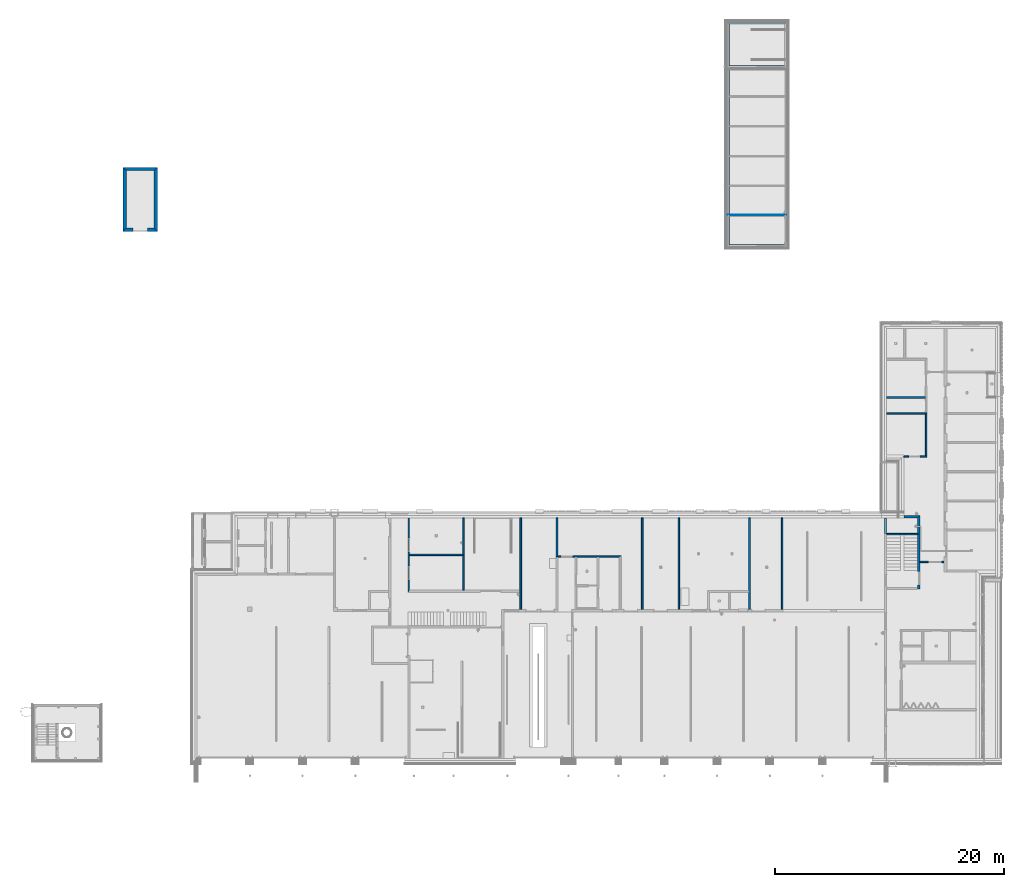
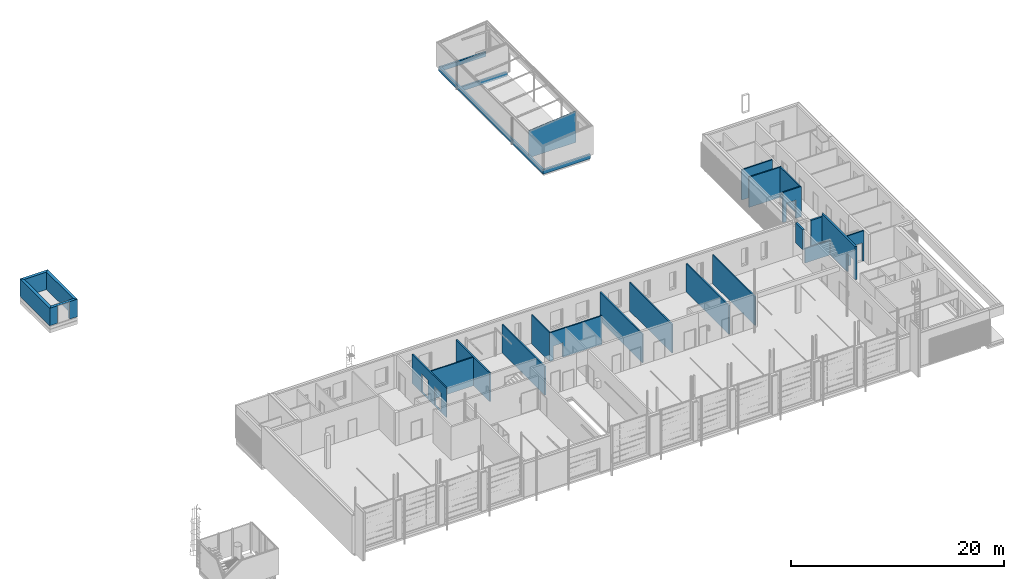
# One storey, part 15 of 112: 28 walls, 8 openings.
"""IFC2X3 building model written with IfcOpenShell, lengths in millimetres."""

from ifc_helpers import new_model, entity, si_unit, converted_unit, derived_unit, money_unit, direction, frame, origin_with_axes, origin_2d_with_axis, place, context, subcontext, project, spatial, polyline, rectangle, outline, extrude, clip, halfspace, material, layer, layer_set, layer_usage, type_object, element, save


model = new_model("IFC2X3")

# Units and contexts
model_context = context("Model", 3, precision=0.01, world=origin_with_axes(), true_north=direction((0.0, 1.0)))
body_context = subcontext(model_context, "Body", "Model", "MODEL_VIEW")
ifc_project = project(units=[si_unit("LENGTHUNIT", "METRE", prefix="MILLI"), si_unit("AREAUNIT", "SQUARE_METRE"), si_unit("VOLUMEUNIT", "CUBIC_METRE"), converted_unit("PLANEANGLEUNIT", "DEGREE", entity("IfcPlaneAngleMeasure", 0.0174532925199), si_unit("PLANEANGLEUNIT", "RADIAN"), dimensions=[0, 0, 0, 0, 0, 0, 0]), si_unit("SOLIDANGLEUNIT", "STERADIAN"), money_unit("EUR"), converted_unit("TIMEUNIT", "Year", entity("IfcTimeMeasure", 31556926.0), si_unit("TIMEUNIT", "SECOND"), dimensions=[0, 0, 1, 0, 0, 0, 0]), si_unit("MASSUNIT", "GRAM", prefix="KILO"), si_unit("THERMODYNAMICTEMPERATUREUNIT", "DEGREE_CELSIUS"), si_unit("LUMINOUSINTENSITYUNIT", "LUMEN"), si_unit("ENERGYUNIT", "JOULE", prefix="MEGA"), derived_unit("THERMALCONDUCTANCEUNIT", [(si_unit("POWERUNIT", "WATT"), 1), (si_unit("LENGTHUNIT", "METRE"), -1), (si_unit("THERMODYNAMICTEMPERATUREUNIT", "KELVIN"), -1)]), derived_unit("SPECIFICHEATCAPACITYUNIT", [(si_unit("ENERGYUNIT", "JOULE"), 1), (si_unit("MASSUNIT", "GRAM", prefix="KILO"), -1), (si_unit("THERMODYNAMICTEMPERATUREUNIT", "KELVIN"), -1)]), derived_unit("MASSDENSITYUNIT", [(si_unit("MASSUNIT", "GRAM", prefix="KILO"), 1), (si_unit("VOLUMEUNIT", "CUBIC_METRE"), -1)])], contexts=[model_context])

# Site, building, storey
site_placement = place(None, origin_with_axes())
site = spatial("IfcSite", under=ifc_project, at=site_placement, Name="Politse- ja Piirivalveameti ning Päästeameti ühishoone", CompositionType="ELEMENT")
building_placement = place(site_placement, origin_with_axes())
building = spatial("IfcBuilding", under=site, at=building_placement, Name="Politse- ja Piirivalveameti ning Päästeameti ühishoone", CompositionType="ELEMENT")
storey_placement = place(building_placement, origin_with_axes())
storey = spatial("IfcBuildingStorey", under=building, at=storey_placement, Name="Esimene korrus", CompositionType="ELEMENT", Elevation=0.0)

# Wall, opening
ifc_material_1 = material(Name="KON-05_Betoon Plokk - Konstuktsioon")
ifc_layer_1 = layer(ifc_material_1, 190.0, ventilated="UNKNOWN")
ifc_layer_set_1 = layer_set([ifc_layer_1], Name="SS-03_Sisesein 190")
ifc_layer_usage_1 = layer_usage(ifc_layer_set_1, "AXIS2", "POSITIVE", -190.0)
wall_type_1 = type_object("IfcWallType", Name="SS-03_Sisesein 190 190", PredefinedType="NOTDEFINED")
wall_1_placement = place(storey_placement, frame((60160.5519118, 20999.9520832, 0.0), z_axis=(0.0, 0.0, 1.0), x_axis=(0.0, -1.0, 0.0)))
wall_1 = element("IfcWallStandardCase", 1, at=wall_1_placement, inside=storey, type_object=wall_type_1, material=ifc_layer_usage_1, Name="SS-03", context=body_context, shape_type="SweptSolid", body=[
    extrude(outline(polyline([(0.0, -190.0), (1360.0, -190.0), (1360.0, 0.0), (0.0, 0.0), (0.0, -190.0)])), origin_with_axes(), (0.0, 0.0, 1.0), 3800.0),
])
opening_1_placement = place(wall_1_placement, frame((680.0, 0.0, 0.0), z_axis=(0.0, 0.0, 1.0), x_axis=(1.0, 0.0, 0.0)))
element("IfcOpeningElement", 2, at=opening_1_placement, cuts=wall_1, Name="TÜHI AVA", context=body_context, shape_type="SweptSolid", body=[
    extrude(rectangle(XDim=1360.0, YDim=1500.0, at=origin_2d_with_axis()), frame((0.0, 190.0, 750.0), z_axis=(0.0, -1.0, 0.0), x_axis=(1.0, 0.0, 0.0)), (0.0, 0.0, 1.0), 570.0),
])

ifc_layer_usage_2 = layer_usage(ifc_layer_set_1, "AXIS2", "NEGATIVE", 190.0)
wall_2_placement = place(storey_placement, frame((63050.557259, 14802.7968272, 0.0), z_axis=(0.0, 0.0, 1.0), x_axis=(0.0, 1.0, 0.0)))
wall_2 = element("IfcWallStandardCase", 3, at=wall_2_placement, inside=storey, type_object=wall_type_1, material=ifc_layer_usage_2, Name="SS-03", context=body_context, shape_type="SweptSolid", body=[
    extrude(outline(polyline([(0.0, 0.0), (6387.15525599, 0.0), (6197.15525599, 190.0), (0.0, 190.0), (0.0, 0.0)])), origin_with_axes(), (0.0, 0.0, 1.0), 3800.0),
])
opening_2_placement = place(wall_2_placement, frame((917.155255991, 0.0, 0.0), z_axis=(0.0, 0.0, 1.0), x_axis=(1.0, 0.0, 0.0)))
element("IfcOpeningElement", 4, at=opening_2_placement, cuts=wall_2, Name="TU-01-4", context=body_context, shape_type="SweptSolid", body=[
    extrude(rectangle(XDim=1200.0, YDim=2100.0, at=origin_2d_with_axis()), frame((0.0, 190.0, 1050.0), z_axis=(0.0, -1.0, 0.0), x_axis=(-1.0, 0.0, 0.0)), (0.0, 0.0, 1.0), 570.0),
    extrude(rectangle(XDim=1274.0, YDim=2137.0, at=origin_2d_with_axis()), frame((0.0, 190.0, 1068.5), z_axis=(0.0, -1.0, 0.0), x_axis=(-1.0, 0.0, 0.0)), (0.0, 0.0, -1.0), 190.0),
    extrude(rectangle(XDim=1274.0, YDim=2137.0, at=origin_2d_with_axis()), frame((0.0, 0.0, 1068.5), z_axis=(0.0, 1.0, 0.0), x_axis=(-1.0, 0.0, 0.0)), (0.0, 0.0, -1.0), 190.0),
])

# Walls
ifc_layer_usage_3 = layer_usage(ifc_layer_set_1, "AXIS2", "NEGATIVE", 190.0)
wall_3_placement = place(storey_placement, frame((63050.557259, 21189.9520832, 0.0), z_axis=(0.0, 0.0, 1.0), x_axis=(-1.0, 0.0, 0.0)))
element("IfcWallStandardCase", 5, at=wall_3_placement, inside=storey, type_object=wall_type_1, material=ifc_layer_usage_3, Name="SS-03", context=body_context, shape_type="SweptSolid", body=[
    extrude(outline(polyline([(0.0, 0.0), (1390.00534722, 0.0), (1390.00534722, 190.0), (190.0, 190.0), (0.0, 0.0)])), origin_with_axes(), (0.0, 0.0, 1.0), 3460.0),
])
ifc_layer_2 = layer(ifc_material_1, 140.0, ventilated="UNKNOWN")
ifc_layer_set_2 = layer_set([ifc_layer_2], Name="SS-02_Sisesein 140")
ifc_layer_usage_4 = layer_usage(ifc_layer_set_2, "AXIS2", "POSITIVE", 0.0)
wall_type_2 = type_object("IfcWallType", Name="SS-02_Sisesein 140 140", PredefinedType="NOTDEFINED")
wall_4_placement = place(storey_placement, frame((63660.557259, 30160.0702441, 0.0), z_axis=(0.0, 0.0, 1.0), x_axis=(-1.0, 0.0, 0.0)))
element("IfcWallStandardCase", 6, at=wall_4_placement, inside=storey, type_object=wall_type_2, material=ifc_layer_usage_4, Name="SS-02", context=body_context, shape_type="SweptSolid", body=[
    extrude(outline(polyline([(0.0, 0.0), (3500.00534722, 0.0), (3500.00534722, 140.0), (140.0, 140.0), (0.0, 0.0)])), origin_with_axes(), (0.0, 0.0, 1.0), 3460.0),
])

# Wall, openings
ifc_layer_usage_5 = layer_usage(ifc_layer_set_2, "AXIS2", "POSITIVE", 0.0)
wall_5_placement = place(storey_placement, frame((18400.0881112, 20999.9520832, -80.0), z_axis=(0.0, 0.0, 1.0), x_axis=(0.0, -1.0, 0.0)))
wall_5 = element("IfcWallStandardCase", 7, at=wall_5_placement, inside=storey, type_object=wall_type_2, material=ifc_layer_usage_5, Name="SS-02", context=body_context, shape_type="SweptSolid", body=[
    extrude(outline(polyline([(0.0, 0.0), (6499.9099304, 0.0), (6309.9099304, 140.0), (0.0, 140.0), (0.0, 0.0)])), origin_with_axes(), (0.0, 0.0, 1.0), 3360.0),
])
opening_3_placement = place(wall_5_placement, frame((2378.72633844, 0.0, 80.0), z_axis=(0.0, 0.0, 1.0), x_axis=(1.0, 0.0, 0.0)))
element("IfcOpeningElement", 8, at=opening_3_placement, cuts=wall_5, Name="TU-01-2", context=body_context, shape_type="SweptSolid", body=[
    extrude(rectangle(XDim=1200.0, YDim=2100.0, at=origin_2d_with_axis()), frame((0.0, -140.0, 1050.0), z_axis=(0.0, -1.0, 0.0), x_axis=(-1.0, 0.0, 0.0)), (0.0, 0.0, -1.0), 420.0),
    extrude(rectangle(XDim=1274.0, YDim=2137.0, at=origin_2d_with_axis()), frame((0.0, 0.0, 1068.5), z_axis=(0.0, -1.0, 0.0), x_axis=(-1.0, 0.0, 0.0)), (0.0, 0.0, 1.0), 140.0),
    extrude(rectangle(XDim=1274.0, YDim=2137.0, at=origin_2d_with_axis()), frame((0.0, 140.0, 1068.5), z_axis=(0.0, 1.0, 0.0), x_axis=(-1.0, 0.0, 0.0)), (0.0, 0.0, 1.0), 140.0),
])
opening_4_placement = place(wall_5_placement, frame((4809.88896278, 0.0, 80.0), z_axis=(0.0, 0.0, 1.0), x_axis=(1.0, 0.0, 0.0)))
element("IfcOpeningElement", 9, at=opening_4_placement, cuts=wall_5, Name="TU-01-2", context=body_context, shape_type="SweptSolid", body=[
    extrude(rectangle(XDim=1200.0, YDim=2100.0, at=origin_2d_with_axis()), frame((0.0, -140.0, 1050.0), z_axis=(0.0, 1.0, 0.0), x_axis=(1.0, 0.0, 0.0)), (0.0, 0.0, 1.0), 420.0),
    extrude(rectangle(XDim=1274.0, YDim=2137.0, at=origin_2d_with_axis()), frame((0.0, 0.0, 1068.5), z_axis=(0.0, 1.0, 0.0), x_axis=(1.0, 0.0, 0.0)), (0.0, 0.0, -1.0), 140.0),
    extrude(rectangle(XDim=1274.0, YDim=2137.0, at=origin_2d_with_axis()), frame((0.0, 140.0, 1068.5), z_axis=(0.0, -1.0, 0.0), x_axis=(1.0, 0.0, 0.0)), (0.0, 0.0, -1.0), 140.0),
])

# Walls
ifc_layer_usage_6 = layer_usage(ifc_layer_set_2, "AXIS2", "POSITIVE", 0.0)
wall_6_placement = place(storey_placement, frame((23160.0953834, 20999.9520832, 0.0), z_axis=(0.0, 0.0, 1.0), x_axis=(0.0, -1.0, 0.0)))
element("IfcWallStandardCase", 10, at=wall_6_placement, inside=storey, type_object=wall_type_2, material=ifc_layer_usage_6, Name="SS-02", context=body_context, shape_type="SweptSolid", body=[
    extrude(outline(polyline([(0.0, 0.0), (6309.9099304, 0.0), (6309.9099304, 140.0), (0.0, 140.0), (0.0, 0.0)])), origin_with_axes(), (0.0, 0.0, 1.0), 3280.0),
])
ifc_layer_usage_7 = layer_usage(ifc_layer_set_2, "AXIS2", "POSITIVE", -70.0)
wall_7_placement = place(storey_placement, frame((23160.0953834, 17759.9859722, 0.0), z_axis=(0.0, 0.0, 1.0), x_axis=(-1.0, 0.0, 0.0)))
element("IfcWallStandardCase", 11, at=wall_7_placement, inside=storey, type_object=wall_type_2, material=ifc_layer_usage_7, Name="SS-02", context=body_context, shape_type="SweptSolid", body=[
    extrude(outline(polyline([(0.0, -70.0), (4620.00727222, -70.0), (4620.00727222, 70.0), (0.0, 70.0), (0.0, -70.0)])), origin_with_axes(), (0.0, 0.0, 1.0), 3280.0),
])
ifc_layer_usage_8 = layer_usage(ifc_layer_set_2, "AXIS2", "POSITIVE", 0.0)
wall_8_placement = place(storey_placement, frame((28160.5030229, 20999.9520832, 0.0), z_axis=(0.0, 0.0, 1.0), x_axis=(0.0, -1.0, 0.0)))
element("IfcWallStandardCase", 12, at=wall_8_placement, inside=storey, type_object=wall_type_2, material=ifc_layer_usage_8, Name="SS-02", context=body_context, shape_type="SweptSolid", body=[
    extrude(outline(polyline([(0.0, 0.0), (7999.9322221, 0.0), (7999.9322221, 140.0), (0.0, 140.0), (0.0, 0.0)])), origin_with_axes(), (0.0, 0.0, 1.0), 3280.0),
])
ifc_layer_usage_9 = layer_usage(ifc_layer_set_2, "AXIS2", "POSITIVE", 0.0)
wall_9_placement = place(storey_placement, frame((38760.5193701, 20999.9520832, 0.0), z_axis=(0.0, 0.0, 1.0), x_axis=(0.0, -1.0, 0.0)))
element("IfcWallStandardCase", 13, at=wall_9_placement, inside=storey, type_object=wall_type_2, material=ifc_layer_usage_9, Name="SS-02", context=body_context, shape_type="SweptSolid", body=[
    extrude(outline(polyline([(0.0, 0.0), (7999.9322221, 0.0), (7999.9322221, 140.0), (0.0, 140.0), (0.0, 0.0)])), origin_with_axes(), (0.0, 0.0, 1.0), 3280.0),
])

# Wall, opening
ifc_layer_usage_10 = layer_usage(ifc_layer_set_2, "AXIS2", "NEGATIVE", 0.0)
wall_10_placement = place(storey_placement, frame((36984.6147098, 17540.0198611, 0.0), z_axis=(0.0, 0.0, 1.0), x_axis=(-1.0, 0.0, 0.0)))
wall_10 = element("IfcWallStandardCase", 14, at=wall_10_placement, inside=storey, type_object=wall_type_2, material=ifc_layer_usage_10, Name="SS-02", context=body_context, shape_type="SweptSolid", body=[
    extrude(outline(polyline([(0.0, -140.0), (5519.90466033, -140.0), (5659.90466033, 0.0), (0.0, 0.0), (0.0, -140.0)])), origin_with_axes(), (0.0, 0.0, 1.0), 3280.0),
])
opening_5_placement = place(wall_10_placement, frame((4720.34111133, 0.0, 0.0), z_axis=(0.0, 0.0, 1.0), x_axis=(1.0, 0.0, 0.0)))
element("IfcOpeningElement", 15, at=opening_5_placement, cuts=wall_10, Name="TU-01-3", context=body_context, shape_type="SweptSolid", body=[
    extrude(rectangle(XDim=1000.0, YDim=1650.0, at=origin_2d_with_axis()), frame((0.0, -140.0, 825.0), z_axis=(0.0, 1.0, 0.0), x_axis=(1.0, 0.0, 0.0)), (0.0, 0.0, 1.0), 420.0),
    extrude(rectangle(XDim=1074.0, YDim=1687.0, at=origin_2d_with_axis()), frame((0.0, -140.0, 843.5), z_axis=(0.0, 1.0, 0.0), x_axis=(1.0, 0.0, 0.0)), (0.0, 0.0, -1.0), 140.0),
    extrude(rectangle(XDim=1074.0, YDim=1687.0, at=origin_2d_with_axis()), frame((0.0, 0.0, 843.5), z_axis=(0.0, -1.0, 0.0), x_axis=(1.0, 0.0, 0.0)), (0.0, 0.0, -1.0), 140.0),
])

# Walls
ifc_layer_usage_11 = layer_usage(ifc_layer_set_2, "AXIS2", "NEGATIVE", 0.0)
wall_11_placement = place(storey_placement, frame((31464.7100495, 20999.9520832, 0.0), z_axis=(0.0, 0.0, 1.0), x_axis=(0.0, -1.0, 0.0)))
element("IfcWallStandardCase", 16, at=wall_11_placement, inside=storey, type_object=wall_type_2, material=ifc_layer_usage_11, Name="SS-02", context=body_context, shape_type="SweptSolid", body=[
    extrude(outline(polyline([(0.0, -140.0), (3459.9322221, -140.0), (3319.9322221, 0.0), (0.0, 0.0), (0.0, -140.0)])), origin_with_axes(), (0.0, 0.0, 1.0), 3280.0),
])
ifc_layer_usage_12 = layer_usage(ifc_layer_set_2, "AXIS2", "POSITIVE", 0.0)
wall_12_placement = place(storey_placement, frame((41960.5241063, 20999.9520832, 0.0), z_axis=(0.0, 0.0, 1.0), x_axis=(0.0, -1.0, 0.0)))
element("IfcWallStandardCase", 17, at=wall_12_placement, inside=storey, type_object=wall_type_2, material=ifc_layer_usage_12, Name="SS-02", context=body_context, shape_type="SweptSolid", body=[
    extrude(outline(polyline([(0.0, 0.0), (7999.9322221, 0.0), (7999.9322221, 140.0), (0.0, 140.0), (0.0, 0.0)])), origin_with_axes(), (0.0, 0.0, 1.0), 3280.0),
])
ifc_layer_usage_13 = layer_usage(ifc_layer_set_2, "AXIS2", "NEGATIVE", 0.0)
wall_13_placement = place(storey_placement, frame((48260.5326618, 20999.9520832, 0.0), z_axis=(0.0, 0.0, 1.0), x_axis=(0.0, -1.0, 0.0)))
element("IfcWallStandardCase", 18, at=wall_13_placement, inside=storey, type_object=wall_type_2, material=ifc_layer_usage_13, Name="SS-02", context=body_context, shape_type="SweptSolid", body=[
    extrude(outline(polyline([(0.0, -140.0), (7999.9322221, -140.0), (7999.9322221, 0.0), (0.0, 0.0), (0.0, -140.0)])), origin_with_axes(), (0.0, 0.0, 1.0), 3280.0),
])
ifc_layer_usage_14 = layer_usage(ifc_layer_set_2, "AXIS2", "POSITIVE", 0.0)
wall_14_placement = place(storey_placement, frame((50960.5378563, 20999.9520832, 0.0), z_axis=(0.0, 0.0, 1.0), x_axis=(0.0, -1.0, 0.0)))
element("IfcWallStandardCase", 19, at=wall_14_placement, inside=storey, type_object=wall_type_2, material=ifc_layer_usage_14, Name="SS-02", context=body_context, shape_type="SweptSolid", body=[
    extrude(outline(polyline([(0.0, 0.0), (7999.9322221, 0.0), (7999.9322221, 140.0), (0.0, 140.0), (0.0, 0.0)])), origin_with_axes(), (0.0, 0.0, 1.0), 3280.0),
])
ifc_layer_usage_15 = layer_usage(ifc_layer_set_2, "AXIS2", "NEGATIVE", 140.0)
wall_15_placement = place(storey_placement, frame((63660.557259, 26419.9520832, 0.0), z_axis=(0.0, 0.0, 1.0), x_axis=(0.0, 1.0, 0.0)))
element("IfcWallStandardCase", 20, at=wall_15_placement, inside=storey, type_object=wall_type_2, material=ifc_layer_usage_15, Name="SS-02", context=body_context, shape_type="SweptSolid", body=[
    extrude(outline(polyline([(-140.0, 0.0), (3740.1181609, 0.0), (3600.1181609, 140.0), (0.0, 140.0), (-140.0, 0.0)])), origin_with_axes(), (0.0, 0.0, 1.0), 3460.0),
])

# Wall, opening
ifc_layer_usage_16 = layer_usage(ifc_layer_set_2, "AXIS2", "NEGATIVE", 140.0)
wall_16_placement = place(storey_placement, frame((63660.557259, 26419.9520832, 0.0), z_axis=(0.0, 0.0, 1.0), x_axis=(-1.0, 0.0, 0.0)))
wall_16 = element("IfcWallStandardCase", 21, at=wall_16_placement, inside=storey, type_object=wall_type_2, material=ifc_layer_usage_16, Name="SS-02", context=body_context, shape_type="SweptSolid", body=[
    extrude(outline(polyline([(0.0, 0.0), (2000.00534722, 0.0), (2000.00534722, 140.0), (0.0, 140.0), (0.0, 0.0)])), origin_with_axes(), (0.0, 0.0, 1.0), 3460.0),
])
opening_6_placement = place(wall_16_placement, frame((1095.00267361, 0.0, 0.0), z_axis=(0.0, 0.0, 1.0), x_axis=(1.0, 0.0, 0.0)))
element("IfcOpeningElement", 22, at=opening_6_placement, cuts=wall_16, Name="TU-01-8", context=body_context, shape_type="SweptSolid", body=[
    extrude(rectangle(XDim=1000.0, YDim=2100.0, at=origin_2d_with_axis()), frame((0.0, -140.0, 1050.0), z_axis=(0.0, -1.0, 0.0), x_axis=(-1.0, 0.0, 0.0)), (0.0, 0.0, -1.0), 420.0),
    extrude(rectangle(XDim=1074.0, YDim=2137.0, at=origin_2d_with_axis()), frame((0.0, 0.0, 1068.5), z_axis=(0.0, -1.0, 0.0), x_axis=(-1.0, 0.0, 0.0)), (0.0, 0.0, 1.0), 140.0),
    extrude(rectangle(XDim=1074.0, YDim=2137.0, at=origin_2d_with_axis()), frame((0.0, 140.0, 1068.5), z_axis=(0.0, 1.0, 0.0), x_axis=(-1.0, 0.0, 0.0)), (0.0, 0.0, 1.0), 140.0),
])

# Walls
ifc_layer_usage_17 = layer_usage(ifc_layer_set_2, "AXIS2", "POSITIVE", 0.0)
wall_17_placement = place(storey_placement, frame((63660.557259, 31559.7347718, 0.0), z_axis=(0.0, 0.0, 1.0), x_axis=(-1.0, 0.0, 0.0)))
element("IfcWallStandardCase", 23, at=wall_17_placement, inside=storey, type_object=wall_type_2, material=ifc_layer_usage_17, Name="SS-02", context=body_context, shape_type="SweptSolid", body=[
    extrude(outline(polyline([(140.0, 0.0), (3500.00534722, 0.0), (3500.00534722, 140.0), (140.0, 140.0), (140.0, 0.0)])), origin_with_axes(), (0.0, 0.0, 1.0), 3460.0),
])
ifc_layer_usage_18 = layer_usage(ifc_layer_set_2, "AXIS2", "NEGATIVE", 0.0)
wall_18_placement = place(storey_placement, frame((60160.5519118, 19639.9520832, 0.0), z_axis=(0.0, 0.0, 1.0), x_axis=(1.0, 0.0, 0.0)))
element("IfcWallStandardCase", 24, at=wall_18_placement, inside=storey, type_object=wall_type_2, material=ifc_layer_usage_18, Name="SS-04", context=body_context, shape_type="SweptSolid", body=[
    extrude(outline(polyline([(5.0, -140.0), (2700.00534722, -140.0), (2700.00534722, 0.0), (5.0, 0.0), (5.0, -140.0)])), origin_with_axes(), (0.0, 0.0, 1.0), 1664.60623219),
])

# Wall, opening
ifc_layer_usage_19 = layer_usage(ifc_layer_set_2, "AXIS2", "NEGATIVE", 140.0)
wall_19_placement = place(storey_placement, frame((65160.5595507, 17222.809139, 0.0), z_axis=(0.0, 0.0, 1.0), x_axis=(-1.0, 0.0, 0.0)))
wall_19 = element("IfcWallStandardCase", 25, at=wall_19_placement, inside=storey, type_object=wall_type_2, material=ifc_layer_usage_19, Name="SS-02", context=body_context, shape_type="SweptSolid", body=[
    extrude(outline(polyline([(5.0, 0.0), (2105.00229167, 0.0), (2105.00229167, 140.0), (5.0, 140.0), (5.0, 0.0)])), origin_with_axes(), (0.0, 0.0, 1.0), 3460.0),
])
opening_7_placement = place(wall_19_placement, frame((800.0, 0.0, 0.0), z_axis=(0.0, 0.0, 1.0), x_axis=(1.0, 0.0, 0.0)))
element("IfcOpeningElement", 26, at=opening_7_placement, cuts=wall_19, Name="TU-01-4", context=body_context, shape_type="SweptSolid", body=[
    extrude(rectangle(XDim=1200.0, YDim=2100.0, at=origin_2d_with_axis()), frame((0.0, -140.0, 1050.0), z_axis=(0.0, 1.0, 0.0), x_axis=(1.0, 0.0, 0.0)), (0.0, 0.0, 1.0), 420.0),
    extrude(rectangle(XDim=1274.0, YDim=2137.0, at=origin_2d_with_axis()), frame((0.0, 0.0, 1068.5), z_axis=(0.0, 1.0, 0.0), x_axis=(1.0, 0.0, 0.0)), (0.0, 0.0, -1.0), 140.0),
    extrude(rectangle(XDim=1274.0, YDim=2137.0, at=origin_2d_with_axis()), frame((0.0, 140.0, 1068.5), z_axis=(0.0, -1.0, 0.0), x_axis=(1.0, 0.0, 0.0)), (0.0, 0.0, -1.0), 140.0),
])

# Walls
ifc_layer_3 = layer(ifc_material_1, 190.0, ventilated="UNKNOWN")
ifc_layer_set_3 = layer_set([ifc_layer_3], Name="VS-43_välissein 190 PPA sokkel")
ifc_layer_usage_20 = layer_usage(ifc_layer_set_3, "AXIS2", "POSITIVE", -95.0)
wall_type_3 = type_object("IfcWallType", Name="VS-43_välissein 190 PPA sokkel 190", PredefinedType="NOTDEFINED")
wall_20_placement = place(storey_placement, frame((51341.8237405, 64149.8510263, -195.0), z_axis=(0.0, 0.0, 1.0), x_axis=(-1.0, 0.0, 0.0)))
element("IfcWallStandardCase", 27, at=wall_20_placement, inside=storey, type_object=wall_type_3, material=ifc_layer_usage_20, Name="VS-43", context=body_context, shape_type="SweptSolid", body=[
    extrude(outline(polyline([(-60.0, -95.0), (5095.0, -95.0), (4905.0, 95.0), (60.0, 95.0), (-60.0, -95.0)])), origin_with_axes(), (0.0, 0.0, 1.0), 495.0),
])
ifc_layer_usage_21 = layer_usage(ifc_layer_set_3, "AXIS2", "POSITIVE", -95.0)
wall_21_placement = place(storey_placement, frame((46341.8237405, 44749.8510263, -195.0), z_axis=(0.0, 0.0, 1.0), x_axis=(0.0, 1.0, 0.0)))
element("IfcWallStandardCase", 28, at=wall_21_placement, inside=storey, type_object=wall_type_3, material=ifc_layer_usage_21, Name="VS-42", context=body_context, shape_type="SweptSolid", body=[
    extrude(outline(polyline([(95.0, -95.0), (19305.0, -95.0), (19495.0, 95.0), (-95.0, 95.0), (95.0, -95.0)])), origin_with_axes(), (0.0, 0.0, 1.0), 495.0),
])
ifc_layer_usage_22 = layer_usage(ifc_layer_set_3, "AXIS2", "POSITIVE", -95.0)
wall_22_placement = place(storey_placement, frame((51341.8237405, 60349.8510263, -195.0), z_axis=(0.0, 0.0, 1.0), x_axis=(-1.0, 0.0, 0.0)))
element("IfcWallStandardCase", 29, at=wall_22_placement, inside=storey, type_object=wall_type_3, material=ifc_layer_usage_22, Name="VS-42", context=body_context, shape_type="SweptSolid", body=[
    extrude(outline(polyline([(60.0, -95.0), (4905.0, -95.0), (4905.0, 95.0), (-60.0, 95.0), (60.0, -95.0)])), origin_with_axes(), (0.0, 0.0, 1.0), 495.0),
])
ifc_layer_usage_23 = layer_usage(ifc_layer_set_3, "AXIS2", "POSITIVE", -95.0)
wall_23_placement = place(storey_placement, frame((51391.8237405, 44749.8510263, -195.0), z_axis=(0.0, 0.0, 1.0), x_axis=(-1.0, 0.0, 0.0)))
element("IfcWallStandardCase", 30, at=wall_23_placement, inside=storey, type_object=wall_type_3, material=ifc_layer_usage_23, Name="VS-42", context=body_context, shape_type="SweptSolid", body=[
    extrude(outline(polyline([(0.0, -95.0), (4955.0, -95.0), (5145.0, 95.0), (0.0, 95.0), (0.0, -95.0)])), origin_with_axes(), (0.0, 0.0, 1.0), 495.0),
])
ifc_material_2 = material(Name="KON-04_Betoon - Konstuktsioon")
ifc_layer_4 = layer(ifc_material_2, 300.0, ventilated="UNKNOWN")
ifc_layer_set_4 = layer_set([ifc_layer_4], Name="VS-60_Välissein lõhkeainehoidla")
ifc_layer_usage_24 = layer_usage(ifc_layer_set_4, "AXIS2", "POSITIVE", -300.0)
wall_type_4 = type_object("IfcWallType", Name="VS-60_Välissein lõhkeainehoidla 300", PredefinedType="NOTDEFINED")
wall_24_placement = place(storey_placement, frame((-3464.49139249, 51578.0648668, 92.4027833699), z_axis=(0.0, 0.0, 1.0), x_axis=(-0.000298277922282, -0.999999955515, 0.0)))
element("IfcWallStandardCase", 31, at=wall_24_placement, inside=storey, type_object=wall_type_4, material=ifc_layer_usage_24, Name="VS-60", context=body_context, shape_type="SweptSolid", body=[
    extrude(outline(polyline([(300.089496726, -300.0), (5300.08971915, -300.0), (5600.00024912, 0.0), (0.0, 0.0), (300.089496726, -300.0)])), origin_with_axes(), (0.0, 0.0, 1.0), 2007.59721663),
])
ifc_layer_usage_25 = layer_usage(ifc_layer_set_4, "AXIS2", "NEGATIVE", 300.0)
wall_25_placement = place(storey_placement, frame((-3464.49139249, 51578.0648668, 92.4027833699), z_axis=(0.0, 0.0, 1.0), x_axis=(-1.0, 0.0, 0.0)))
element("IfcWallStandardCase", 32, at=wall_25_placement, inside=storey, type_object=wall_type_4, material=ifc_layer_usage_25, Name="VS-60", context=body_context, shape_type="SweptSolid", body=[
    extrude(outline(polyline([(0.0, 0.0), (3000.0, 0.0), (2700.0, 300.0), (300.089496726, 300.0), (0.0, 0.0)])), origin_with_axes(), (0.0, 0.0, 1.0), 2007.59721663),
])
ifc_layer_usage_26 = layer_usage(ifc_layer_set_4, "AXIS2", "NEGATIVE", 300.0)
wall_26_placement = place(storey_placement, frame((-6464.49139249, 51578.0648668, 92.4027833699), z_axis=(0.0, 0.0, 1.0), x_axis=(0.0, -1.0, 0.0)))
element("IfcWallStandardCase", 33, at=wall_26_placement, inside=storey, type_object=wall_type_4, material=ifc_layer_usage_26, Name="VS-60", context=body_context, shape_type="SweptSolid", body=[
    extrude(outline(polyline([(0.0, 0.0), (5600.0, 0.0), (5300.0, 300.0), (300.0, 300.0), (0.0, 0.0)])), origin_with_axes(), (0.0, 0.0, 1.0), 2007.59721663),
])

# Wall, opening
ifc_layer_usage_27 = layer_usage(ifc_layer_set_4, "AXIS2", "NEGATIVE", 300.0)
wall_27_placement = place(storey_placement, frame((-6464.49139249, 45978.0648668, 92.4027833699), z_axis=(0.0, 0.0, 1.0), x_axis=(1.0, 0.0, 0.0)))
wall_27 = element("IfcWallStandardCase", 34, at=wall_27_placement, inside=storey, type_object=wall_type_4, material=ifc_layer_usage_27, Name="VS-60", context=body_context, shape_type="SweptSolid", body=[
    extrude(outline(polyline([(0.0, 0.0), (2998.32964356, 0.0), (2698.4191136, 300.0), (300.0, 300.0), (0.0, 0.0)])), origin_with_axes(), (0.0, 0.0, 1.0), 2007.59721663),
])
opening_8_placement = place(wall_27_placement, frame((1500.0, 0.0, 0.0), z_axis=(0.0, 0.0, 1.0), x_axis=(1.0, 0.0, 0.0)))
element("IfcOpeningElement", 35, at=opening_8_placement, cuts=wall_27, Name="VU-61 (kuulub hoidla komplekti)", context=body_context, shape_type="SweptSolid", body=[
    extrude(rectangle(XDim=1300.0, YDim=2000.0, at=origin_2d_with_axis()), frame((0.0, 300.0, 1000.0), z_axis=(0.0, -1.0, 0.0), x_axis=(-1.0, 0.0, 0.0)), (0.0, 0.0, 1.0), 900.0),
    extrude(rectangle(XDim=1374.0, YDim=2037.0, at=origin_2d_with_axis()), frame((0.0, 300.0, 1018.5), z_axis=(0.0, -1.0, 0.0), x_axis=(-1.0, 0.0, 0.0)), (0.0, 0.0, -1.0), 300.0),
    extrude(rectangle(XDim=1374.0, YDim=2037.0, at=origin_2d_with_axis()), frame((0.0, 0.0, 1018.5), z_axis=(0.0, 1.0, 0.0), x_axis=(-1.0, 0.0, 0.0)), (0.0, 0.0, -1.0), 300.0),
])

# Wall
ifc_material_3 = material(Name="Õhkvahe - Raam")
ifc_layer_5 = layer(ifc_material_3, 50.0, ventilated="UNKNOWN")
ifc_layer_set_5 = layer_set([ifc_layer_5], Name="VS-42_välissein PPA varjualune met-võrk")
ifc_layer_usage_28 = layer_usage(ifc_layer_set_5, "AXIS2", "POSITIVE", 0.0)
wall_type_5 = type_object("IfcWallType", Name="VS-42_välissein PPA varjualune met-võrk 50", PredefinedType="NOTDEFINED")
wall_28_placement = place(storey_placement, frame((46291.8237119, 47399.8510263, 0.0), z_axis=(0.0, 0.0, 1.0), x_axis=(1.0, 0.0, 0.0)))
element("IfcWallStandardCase", 36, at=wall_28_placement, inside=storey, type_object=wall_type_5, material=ifc_layer_usage_28, Name="VS-42", context=body_context, shape_type="Clipping", body=[
    clip(extrude(outline(polyline([(2.86101808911e-05, 0.0), (5111.79834449, 0.0), (5111.79834449, 50.0), (2.86101808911e-05, 50.0), (2.86101808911e-05, 0.0)])), origin_with_axes(), (0.0, 0.0, 1.0), 3800.0), halfspace(frame((-306.809961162, 0.0, 3073.83940819), z_axis=(0.0993197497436, 0.0, -0.995055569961), x_axis=(0.0, 1.0, 0.0)), True)),
])

save(model, "model.ifc")
